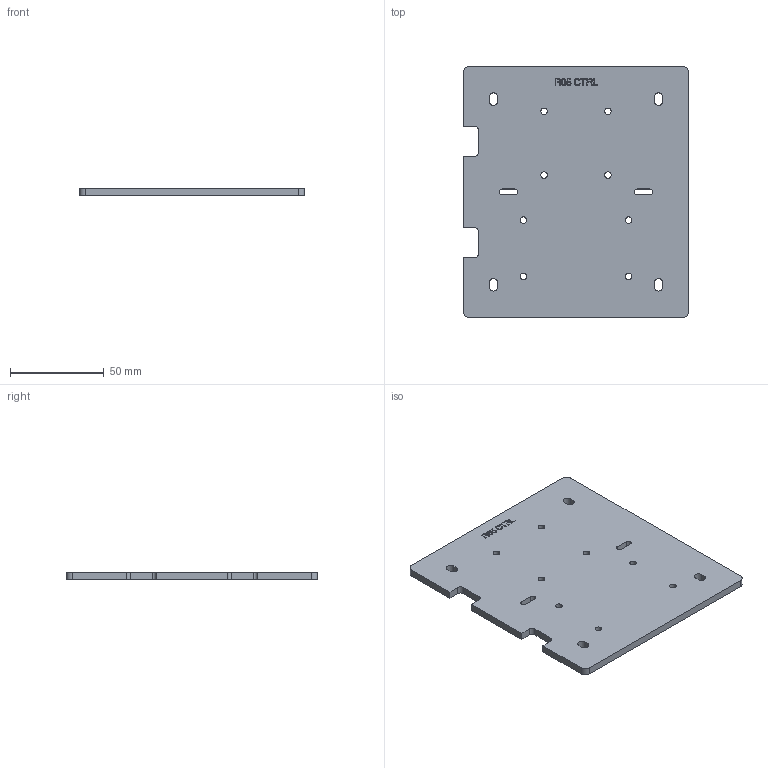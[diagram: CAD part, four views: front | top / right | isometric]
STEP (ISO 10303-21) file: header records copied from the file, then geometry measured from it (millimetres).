
FILE_DESCRIPTION(('Open CASCADE Model'),'2;1');
FILE_NAME('Open CASCADE Shape Model','2026-10-14T15:05:46',('Author'),( 'Open CASCADE'),'Open CASCADE STEP processor 7.8','Open CASCADE 7.8' ,'Unknown');
FILE_SCHEMA(('AUTOMOTIVE_DESIGN { 1 0 10303 214 1 1 1 1 }'));
Length unit declared in the file: millimetre
Products named in the file (1): Open CASCADE STEP translator 7.8 5
Bounding box: 120 x 133.8 x 4 mm (x, y, z)
Volume: 62210.6 mm3; surface area: 34132.9 mm2
Topology: 1 solids, 1 shells, 201 faces, 567 edges, 378 vertices
Faces by surface type: extrusion 92, plane 81, cylinder 28
Full cylindrical faces by diameter (mm): 3.5 x8
Entity records: 16157 total; most frequent: CARTESIAN_POINT 5970, DIRECTION 1397, ORIENTED_EDGE 1134, PCURVE 1134, DEFINITIONAL_REPRESENTATION 1134, VECTOR 1051, LINE 959, B_SPLINE_CURVE_WITH_KNOTS 722
